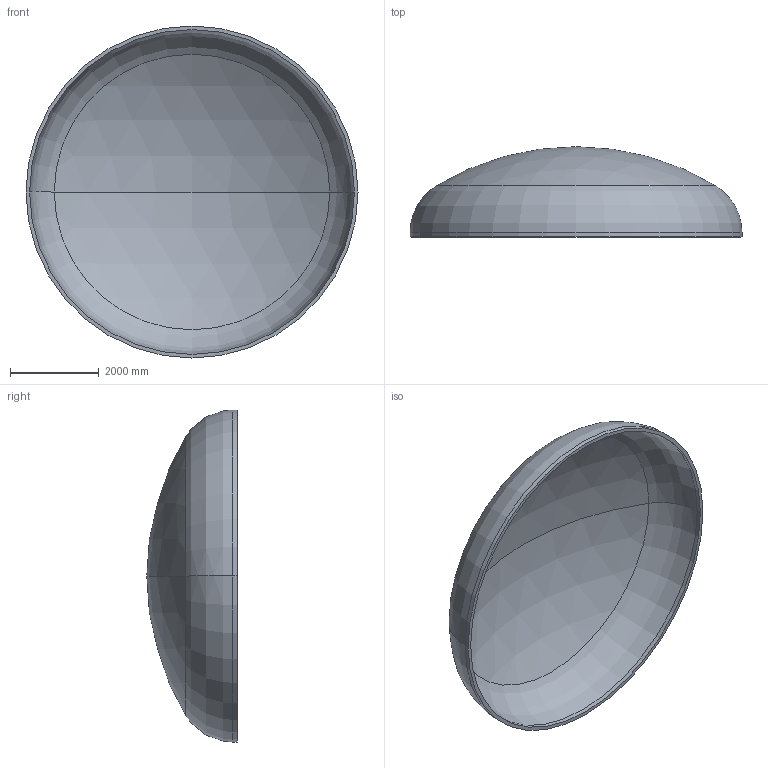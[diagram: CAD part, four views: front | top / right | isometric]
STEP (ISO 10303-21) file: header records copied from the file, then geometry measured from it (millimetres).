
FILE_DESCRIPTION (( 'STEP AP203' ), '1' );
FILE_NAME ('DIN 28013 Korbbogenform_-_Boden DIN 28013 - 7500 x 100 - I - s=82.step', '2016-07-04T10:56:08', ( '' ), ( '' ), 'SwSTEP 2.0', 'SolidWorks 2013', '' );
FILE_SCHEMA (( 'CONFIG_CONTROL_DESIGN' ));
Length unit declared in the file: millimetre
Products named in the file (1): DIN 28013 Korbbogenform_-_Boden DIN 28013 - 7500 x 100 - I - s=82
Bounding box: 7500 x 2039.67 x 7500 mm (x, y, z)
Volume: 5136391310.5 mm3; surface area: 127202826.5 mm2
Topology: 1 solids, 1 shells, 13 faces, 24 edges, 14 vertices
Faces by surface type: torus 4, cylinder 4, sphere 4, plane 1
Entity records: 407 total; most frequent: DIRECTION 72, CARTESIAN_POINT 52, ORIENTED_EDGE 48, AXIS2_PLACEMENT_3D 34, EDGE_CURVE 24, CIRCLE 20, VERTEX_POINT 14, EDGE_LOOP 14
